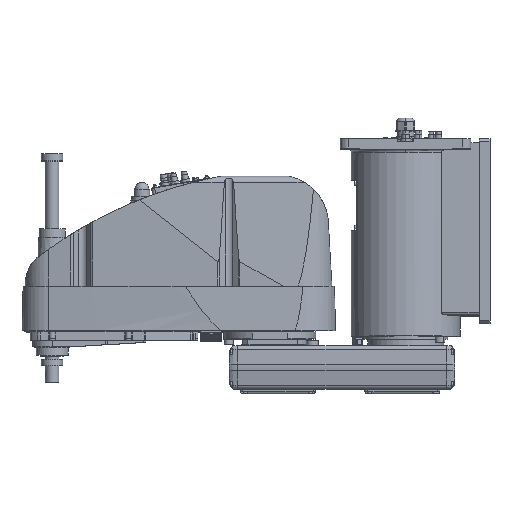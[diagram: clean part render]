
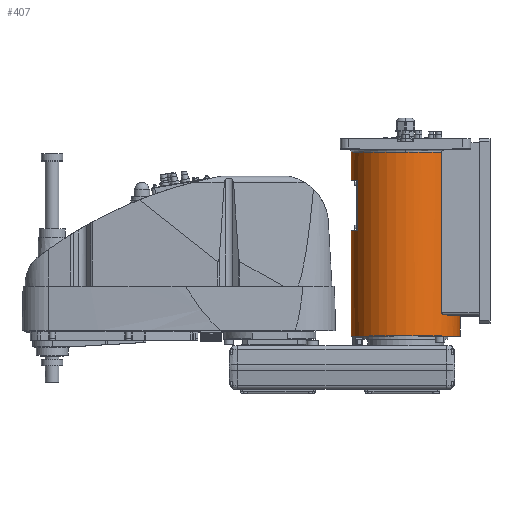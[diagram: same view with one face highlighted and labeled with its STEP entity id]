
A CAD part, top view. The second image highlights one B-rep face of the part: STEP entity #407.
In plain terms, the highlighted cylindrical face has radius 100 mm (diameter 200 mm), a partial arc.
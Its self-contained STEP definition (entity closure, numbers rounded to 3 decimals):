
#407 = ADVANCED_FACE( '', ( #2587 ), #2588, .T. );
#2587 = FACE_OUTER_BOUND( '', #6890, .T. );
#2588 = CYLINDRICAL_SURFACE( '', #6891, 100. );
#6890 = EDGE_LOOP( '', ( #12162, #12163, #12164, #12165, #12166, #12167, #12168, #12169, #12170, #12171, #12172, #12173, #12174, #12175, #12176, #12177 ) );
#6891 = AXIS2_PLACEMENT_3D( '', #12178, #12179, #12180 );
#12162 = ORIENTED_EDGE( '', *, *, #27044, .T. );
#12163 = ORIENTED_EDGE( '', *, *, #27152, .T. );
#12164 = ORIENTED_EDGE( '', *, *, #27143, .T. );
#12165 = ORIENTED_EDGE( '', *, *, #27139, .T. );
#12166 = ORIENTED_EDGE( '', *, *, #27146, .T. );
#12167 = ORIENTED_EDGE( '', *, *, #27151, .T. );
#12168 = ORIENTED_EDGE( '', *, *, #27155, .T. );
#12169 = ORIENTED_EDGE( '', *, *, #27156, .T. );
#12170 = ORIENTED_EDGE( '', *, *, #26479, .F. );
#12171 = ORIENTED_EDGE( '', *, *, #26484, .F. );
#12172 = ORIENTED_EDGE( '', *, *, #27050, .T. );
#12173 = ORIENTED_EDGE( '', *, *, #27157, .T. );
#12174 = ORIENTED_EDGE( '', *, *, #27158, .T. );
#12175 = ORIENTED_EDGE( '', *, *, #27159, .T. );
#12176 = ORIENTED_EDGE( '', *, *, #27046, .T. );
#12177 = ORIENTED_EDGE( '', *, *, #27160, .T. );
#12178 = CARTESIAN_POINT( '', ( 0., 194., 0. ) );
#12179 = DIRECTION( '', ( 0., -1., 0. ) );
#12180 = DIRECTION( '', ( 1., 0., 0. ) );
#26479 = EDGE_CURVE( '', #31329, #31331, #31332, .T. );
#26484 = EDGE_CURVE( '', #31339, #31329, #31341, .T. );
#27044 = EDGE_CURVE( '', #32433, #32434, #32435, .T. );
#27046 = EDGE_CURVE( '', #32438, #32436, #32439, .T. );
#27050 = EDGE_CURVE( '', #31339, #32444, #32446, .T. );
#27139 = EDGE_CURVE( '', #32592, #32593, #32594, .T. );
#27143 = EDGE_CURVE( '', #32600, #32592, #32601, .T. );
#27146 = EDGE_CURVE( '', #32593, #32605, #32606, .T. );
#27151 = EDGE_CURVE( '', #32605, #32612, #32614, .T. );
#27152 = EDGE_CURVE( '', #32434, #32600, #32615, .T. );
#27155 = EDGE_CURVE( '', #32612, #32619, #32620, .T. );
#27156 = EDGE_CURVE( '', #32619, #31331, #32621, .T. );
#27157 = EDGE_CURVE( '', #32444, #32622, #32623, .T. );
#27158 = EDGE_CURVE( '', #32622, #32624, #32625, .T. );
#27159 = EDGE_CURVE( '', #32624, #32438, #32626, .T. );
#27160 = EDGE_CURVE( '', #32436, #32433, #32627, .T. );
#31329 = VERTEX_POINT( '', #39340 );
#31331 = VERTEX_POINT( '', #39342 );
#31332 = CIRCLE( '', #39343, 100. );
#31339 = VERTEX_POINT( '', #39377 );
#31341 = CIRCLE( '', #39379, 100. );
#32433 = VERTEX_POINT( '', #40751 );
#32434 = VERTEX_POINT( '', #40752 );
#32435 = LINE( '', #40753, #40754 );
#32436 = VERTEX_POINT( '', #40755 );
#32438 = VERTEX_POINT( '', #40757 );
#32439 = LINE( '', #40758, #40759 );
#32444 = VERTEX_POINT( '', #40765 );
#32446 = LINE( '', #40767, #40768 );
#32592 = VERTEX_POINT( '', #40990 );
#32593 = VERTEX_POINT( '', #40991 );
#32594 = CIRCLE( '', #40992, 100. );
#32600 = VERTEX_POINT( '', #41001 );
#32601 = LINE( '', #41002, #41003 );
#32605 = VERTEX_POINT( '', #41009 );
#32606 = LINE( '', #41010, #41011 );
#32612 = VERTEX_POINT( '', #41020 );
#32614 = CIRCLE( '', #41023, 100. );
#32615 = CIRCLE( '', #41024, 100. );
#32619 = VERTEX_POINT( '', #41030 );
#32620 = B_SPLINE_CURVE_WITH_KNOTS( '', 3, ( #41031, #41032, #41033, #41034, #41035, #41036, #41037, #41038, #41039, #41040, #41041, #41042, #41043, #41044, #41045, #41046, #41047, #41048 ), .UNSPECIFIED., .F., .F., ( 4, 2, 2, 2, 2, 2, 2, 2, 4 ), ( 7.241, 8.361, 9.482, 10.602, 11.722, 12.472, 13.222, 13.972, 14.722 ), .UNSPECIFIED. );
#32621 = LINE( '', #41049, #41050 );
#32622 = VERTEX_POINT( '', #41051 );
#32623 = CIRCLE( '', #41052, 100. );
#32624 = VERTEX_POINT( '', #41053 );
#32625 = LINE( '', #41054, #41055 );
#32626 = CIRCLE( '', #41056, 100. );
#32627 = CIRCLE( '', #41057, 100. );
#39340 = CARTESIAN_POINT( '', ( 0., 363., 100. ) );
#39342 = CARTESIAN_POINT( '', ( 66.144, 363., 75. ) );
#39343 = AXIS2_PLACEMENT_3D( '', #52231, #52232, #52233 );
#39377 = CARTESIAN_POINT( '', ( -100., 363., 0. ) );
#39379 = AXIS2_PLACEMENT_3D( '', #52243, #52244, #52245 );
#40751 = CARTESIAN_POINT( '', ( 100., 25., 0. ) );
#40752 = CARTESIAN_POINT( '', ( 100., 64., 0. ) );
#40753 = CARTESIAN_POINT( '', ( 100., 194., 0. ) );
#40754 = VECTOR( '', #53363, 1. );
#40755 = CARTESIAN_POINT( '', ( -100., 25., 0. ) );
#40757 = CARTESIAN_POINT( '', ( -100., 218.3, 0. ) );
#40758 = CARTESIAN_POINT( '', ( -100., 194., 0. ) );
#40759 = VECTOR( '', #53367, 1. );
#40765 = CARTESIAN_POINT( '', ( -100., 311.3, 0. ) );
#40767 = CARTESIAN_POINT( '', ( -100., 194., 0. ) );
#40768 = VECTOR( '', #53375, 1. );
#40990 = CARTESIAN_POINT( '', ( 89.303, 62., 45. ) );
#40991 = CARTESIAN_POINT( '', ( 75.993, 62., 65. ) );
#40992 = AXIS2_PLACEMENT_3D( '', #53519, #53520, #53521 );
#41001 = CARTESIAN_POINT( '', ( 89.303, 64., 45. ) );
#41002 = CARTESIAN_POINT( '', ( 89.303, 63., 45. ) );
#41003 = VECTOR( '', #53525, 1. );
#41009 = CARTESIAN_POINT( '', ( 75.993, 64., 65. ) );
#41010 = CARTESIAN_POINT( '', ( 75.993, 63., 65. ) );
#41011 = VECTOR( '', #53528, 1. );
#41020 = CARTESIAN_POINT( '', ( 70.42, 64., 71. ) );
#41023 = AXIS2_PLACEMENT_3D( '', #53533, #53534, #53535 );
#41024 = AXIS2_PLACEMENT_3D( '', #53536, #53537, #53538 );
#41030 = CARTESIAN_POINT( '', ( 66.144, 68., 75. ) );
#41031 = CARTESIAN_POINT( '', ( 70.42, 64., 71. ) );
#41032 = CARTESIAN_POINT( '', ( 70.155, 64., 71.263 ) );
#41033 = CARTESIAN_POINT( '', ( 69.877, 64.026, 71.535 ) );
#41034 = CARTESIAN_POINT( '', ( 69.316, 64.139, 72.08 ) );
#41035 = CARTESIAN_POINT( '', ( 69.031, 64.224, 72.352 ) );
#41036 = CARTESIAN_POINT( '', ( 68.475, 64.457, 72.879 ) );
#41037 = CARTESIAN_POINT( '', ( 68.203, 64.604, 73.134 ) );
#41038 = CARTESIAN_POINT( '', ( 67.688, 64.954, 73.61 ) );
#41039 = CARTESIAN_POINT( '', ( 67.446, 65.158, 73.831 ) );
#41040 = CARTESIAN_POINT( '', ( 67.082, 65.542, 74.162 ) );
#41041 = CARTESIAN_POINT( '', ( 66.938, 65.716, 74.292 ) );
#41042 = CARTESIAN_POINT( '', ( 66.674, 66.103, 74.529 ) );
#41043 = CARTESIAN_POINT( '', ( 66.555, 66.315, 74.636 ) );
#41044 = CARTESIAN_POINT( '', ( 66.356, 66.766, 74.812 ) );
#41045 = CARTESIAN_POINT( '', ( 66.277, 67.005, 74.882 ) );
#41046 = CARTESIAN_POINT( '', ( 66.171, 67.497, 74.976 ) );
#41047 = CARTESIAN_POINT( '', ( 66.144, 67.75, 75. ) );
#41048 = CARTESIAN_POINT( '', ( 66.144, 68., 75. ) );
#41049 = CARTESIAN_POINT( '', ( 66.144, 215.5, 75. ) );
#41050 = VECTOR( '', #53541, 1. );
#41051 = CARTESIAN_POINT( '', ( -88., 311.3, 47.497 ) );
#41052 = AXIS2_PLACEMENT_3D( '', #53542, #53543, #53544 );
#41053 = CARTESIAN_POINT( '', ( -88., 218.3, 47.497 ) );
#41054 = CARTESIAN_POINT( '', ( -88., 264.8, 47.497 ) );
#41055 = VECTOR( '', #53545, 1. );
#41056 = AXIS2_PLACEMENT_3D( '', #53546, #53547, #53548 );
#41057 = AXIS2_PLACEMENT_3D( '', #53549, #53550, #53551 );
#52231 = CARTESIAN_POINT( '', ( 0., 363., 0. ) );
#52232 = DIRECTION( '', ( 0., 1., 0. ) );
#52233 = DIRECTION( '', ( 1., 0., 0. ) );
#52243 = CARTESIAN_POINT( '', ( 0., 363., 0. ) );
#52244 = DIRECTION( '', ( 0., 1., 0. ) );
#52245 = DIRECTION( '', ( 1., 0., 0. ) );
#53363 = DIRECTION( '', ( 0., 1., 0. ) );
#53367 = DIRECTION( '', ( 0., -1., 0. ) );
#53375 = DIRECTION( '', ( 0., -1., 0. ) );
#53519 = CARTESIAN_POINT( '', ( 0., 62., 0. ) );
#53520 = DIRECTION( '', ( 0., -1., 0. ) );
#53521 = DIRECTION( '', ( 1., 0., 0. ) );
#53525 = DIRECTION( '', ( 0., -1., 0. ) );
#53528 = DIRECTION( '', ( 0., 1., 0. ) );
#53533 = CARTESIAN_POINT( '', ( 0., 64., 0. ) );
#53534 = DIRECTION( '', ( 0., -1., 0. ) );
#53535 = DIRECTION( '', ( 1., 0., 0. ) );
#53536 = CARTESIAN_POINT( '', ( 0., 64., 0. ) );
#53537 = DIRECTION( '', ( 0., -1., 0. ) );
#53538 = DIRECTION( '', ( 1., 0., 0. ) );
#53541 = DIRECTION( '', ( 0., 1., 0. ) );
#53542 = CARTESIAN_POINT( '', ( 0., 311.3, 0. ) );
#53543 = DIRECTION( '', ( 0., 1., 0. ) );
#53544 = DIRECTION( '', ( 1., 0., 0. ) );
#53545 = DIRECTION( '', ( 0., -1., 0. ) );
#53546 = CARTESIAN_POINT( '', ( 0., 218.3, 0. ) );
#53547 = DIRECTION( '', ( 0., -1., 0. ) );
#53548 = DIRECTION( '', ( 1., 0., 0. ) );
#53549 = CARTESIAN_POINT( '', ( 0., 25., 0. ) );
#53550 = DIRECTION( '', ( 0., 1., 0. ) );
#53551 = DIRECTION( '', ( 1., 0., 0. ) );
